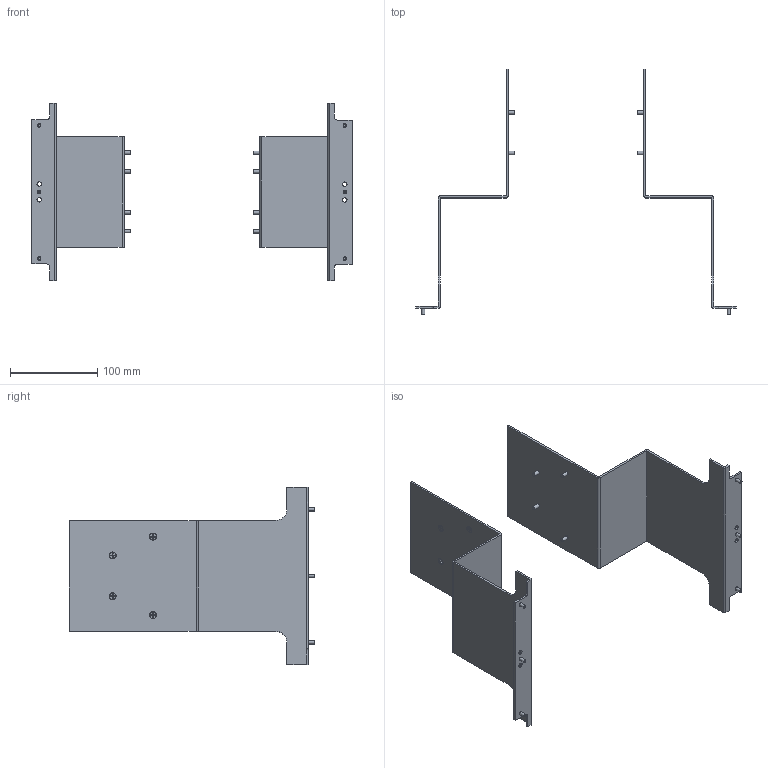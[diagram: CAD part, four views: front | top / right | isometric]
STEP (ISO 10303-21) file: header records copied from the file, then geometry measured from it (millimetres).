
FILE_DESCRIPTION((''),'2;1');
FILE_NAME('C:\copy my documents\Inventor\web site project\Receiver Mounting Kits\561979-RevA-STP.stp','2013-03-15T11:59:57',('davecooper'),(''),'Autodesk Inventor 2011','Autodesk Inventor 2011','');
FILE_SCHEMA(('CONFIG_CONTROL_DESIGN'));
Length unit declared in the file: inch
Products named in the file (5): 561979-CU; 561979; 5517068; 632F85; M4F85
Assembly tree (17 placements, depth 3):
  561979-CU
    561979
      5517068  x2
      632F85  x6
      M4F85  x8
Bounding box: 366.89 x 281.2 x 203.37 mm (x, y, z)
Volume: 232531.1 mm3; surface area: 210981.2 mm2
Topology: 16 solids, 16 shells, 468 faces, 898 edges, 476 vertices
Faces by surface type: plane 332, cylinder 102, cone 34
Full cylindrical faces by diameter (mm): 3.505 x6, 4 x8, 5.105 x4
Entity records: 2881 total; most frequent: DIRECTION 514, CARTESIAN_POINT 446, ORIENTED_EDGE 402, EDGE_CURVE 201, AXIS2_PLACEMENT_3D 187, VECTOR 140, LINE 140, EDGE_LOOP 138
